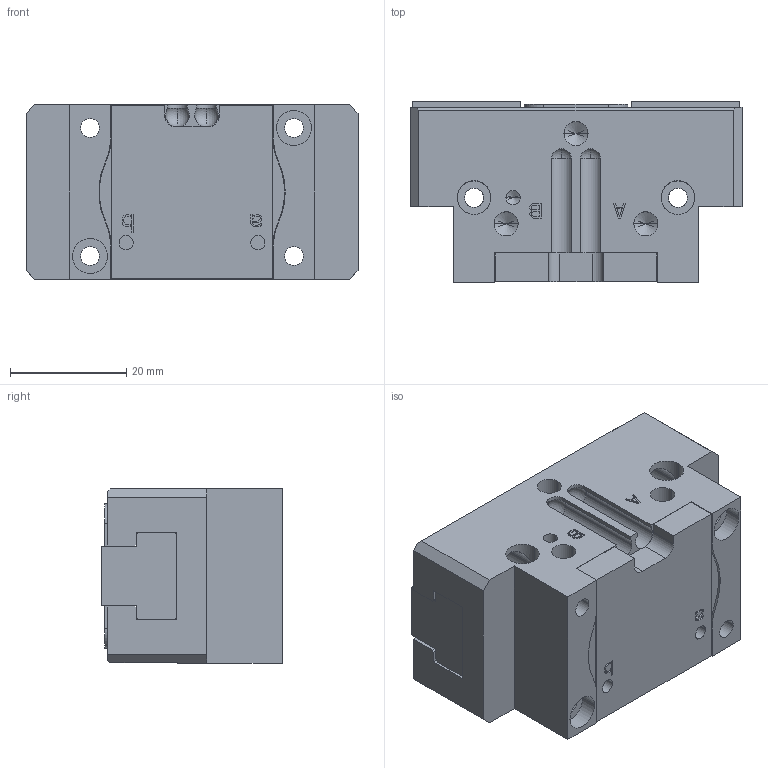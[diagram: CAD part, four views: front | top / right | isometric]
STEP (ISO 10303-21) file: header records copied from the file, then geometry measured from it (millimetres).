
FILE_DESCRIPTION (( 'STEP AP214' ), '1' );
FILE_NAME ('FPT-50A-1.STEP', '2020-07-06T07:23:03', ( '' ), ( '' ), 'SwSTEP 2.0', 'SolidWorks 2016', '' );
FILE_SCHEMA (( 'AUTOMOTIVE_DESIGN' ));
Length unit declared in the file: millimetre
Products named in the file (5): FPT-50A-1; NAUO6; NAUO3; NAUO2; NAUO1
Assembly tree (5 placements, depth 2):
  FPT-50A-1
    NAUO1
    NAUO2
    NAUO3
    NAUO6  x2
Bounding box: 57 x 31 x 30 mm (x, y, z)
Volume: 40076.7 mm3; surface area: 20484.7 mm2
Topology: 5 solids, 5 shells, 469 faces, 1253 edges, 800 vertices
Faces by surface type: plane 283, cylinder 134, cone 48, sphere 4
Entity records: 13669 total; most frequent: CARTESIAN_POINT 2554, ORIENTED_EDGE 2262, DIRECTION 2259, EDGE_CURVE 1131, VECTOR 833, LINE 833, VERTEX_POINT 744, AXIS2_PLACEMENT_3D 713
